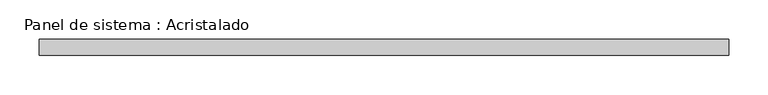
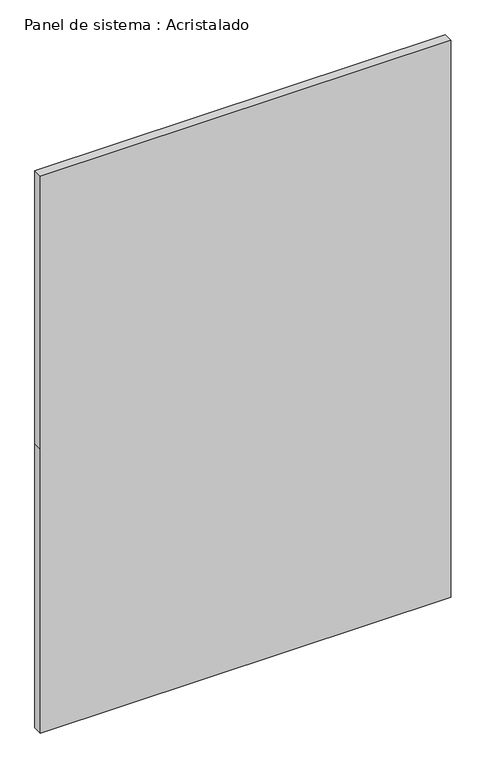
"""IFC4 building model written with IfcOpenShell, lengths in millimetres: plate geometry, Panel de sistema : Acristalado."""

from ifc_helpers import new_model, si_unit, frame, origin, place, context, project, spatial, polyline, outline, extrude, source, transform, mapped, element, save


def panel_de_sistema_acristalado_2524d151(model_context):
    return source(origin(), model_context, "Body", "SweptSolid", [
        extrude(outline(polyline([(0.0, -437.5), (0.0, 437.5), (640.0, 437.5), (1255.0, 437.5), (1255.0, -437.5), (640.0, -437.5), (0.0, -437.5)])), frame((0.0, -10.0, 0.0), z_axis=(0.0, 1.0, 0.0), x_axis=(0.0, 0.0, 1.0)), (0.0, 0.0, 1.0), 20.0),
    ])


if __name__ == "__main__":
    model = new_model("IFC4")
    model_context = context("Model", 3, world=origin())
    ifc_project = project(units=[si_unit("LENGTHUNIT", "METRE", prefix="MILLI")], contexts=[model_context])
    site = spatial("IfcSite", under=ifc_project)
    building = spatial("IfcBuilding", under=site)
    placement = place(None, origin())
    panel_de_sistema_acristalado_shape = panel_de_sistema_acristalado_2524d151(model_context)
    element("IfcPlate", 1, ObjectType="Panel de sistema : Acristalado", at=placement, inside=building, context=model_context, shape_type="MappedRepresentation", body=[
        mapped(panel_de_sistema_acristalado_shape, transform((0.0, 0.0, 0.0), x_axis=(1.0, 0.0, 0.0), y_axis=(0.0, 1.0, 0.0), z_axis=(0.0, 0.0, 1.0))),
    ])
    save(model, "model.ifc")
